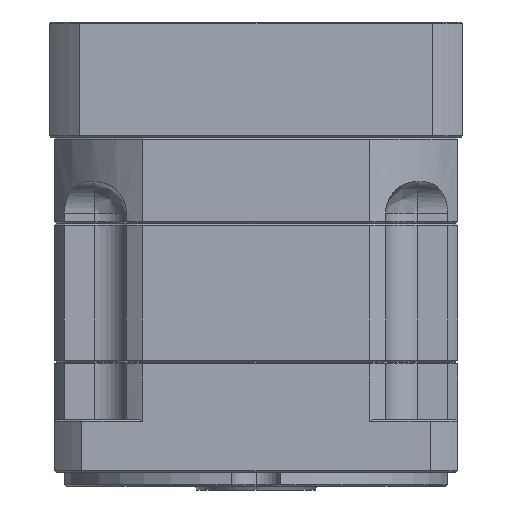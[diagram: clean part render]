
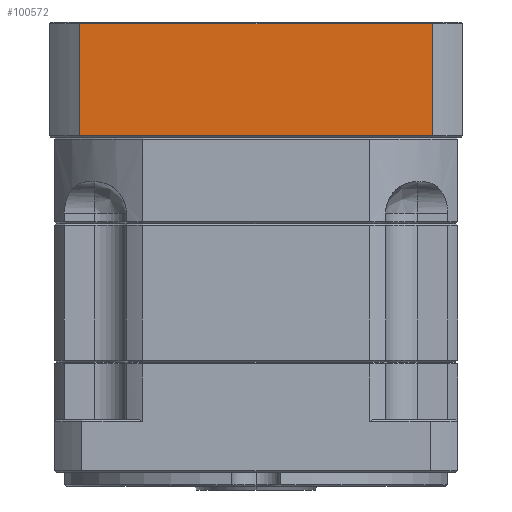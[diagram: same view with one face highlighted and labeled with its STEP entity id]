
A CAD part, left-side view. The second image highlights one B-rep face of the part: STEP entity #100572.
In plain terms, the highlighted planar face has unit normal (-1, 0, 0).
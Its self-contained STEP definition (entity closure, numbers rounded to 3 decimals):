
#1124 = EDGE_LOOP ( 'NONE', ( #12718, #94766, #54197, #71716 ) ) ;
#2733 = EDGE_CURVE ( 'NONE', #59327, #21064, #100605, .T. ) ;
#8048 = DIRECTION ( 'NONE',  ( 1., 0., 0. ) ) ;
#12566 = EDGE_CURVE ( 'NONE', #21064, #60515, #40184, .T. ) ;
#12718 = ORIENTED_EDGE ( 'NONE', *, *, #12566, .F. ) ;
#13632 = CARTESIAN_POINT ( 'NONE',  ( -9.591, 107.304, -37.914 ) ) ;
#18759 = CARTESIAN_POINT ( 'NONE',  ( -9.591, 6.8, -5.414 ) ) ;
#21064 = VERTEX_POINT ( 'NONE', #81730 ) ;
#22446 = VECTOR ( 'NONE', #118768, 1000. ) ;
#25638 = LINE ( 'NONE', #27287, #22446 ) ;
#27287 = CARTESIAN_POINT ( 'NONE',  ( -9.591, 107.304, -37.914 ) ) ;
#29881 = VERTEX_POINT ( 'NONE', #78583 ) ;
#34820 = VECTOR ( 'NONE', #55629, 1000. ) ;
#40184 = LINE ( 'NONE', #104568, #91467 ) ;
#44732 = CARTESIAN_POINT ( 'NONE',  ( -9.591, 6.8, -5.914 ) ) ;
#46935 = VECTOR ( 'NONE', #112006, 1000. ) ;
#54197 = ORIENTED_EDGE ( 'NONE', *, *, #71313, .T. ) ;
#55629 = DIRECTION ( 'NONE',  ( 0., 0., 1. ) ) ;
#59327 = VERTEX_POINT ( 'NONE', #13632 ) ;
#59662 = PLANE ( 'NONE',  #129441 ) ;
#60515 = VERTEX_POINT ( 'NONE', #44732 ) ;
#69910 = DIRECTION ( 'NONE',  ( 0., 1., 0. ) ) ;
#71313 = EDGE_CURVE ( 'NONE', #59327, #29881, #25638, .T. ) ;
#71716 = ORIENTED_EDGE ( 'NONE', *, *, #94453, .F. ) ;
#76195 = CARTESIAN_POINT ( 'NONE',  ( -9.591, 107.304, -5.414 ) ) ;
#78583 = CARTESIAN_POINT ( 'NONE',  ( -9.591, 6.8, -37.914 ) ) ;
#81730 = CARTESIAN_POINT ( 'NONE',  ( -9.591, 107.304, -5.914 ) ) ;
#82190 = LINE ( 'NONE', #18759, #46935 ) ;
#90131 = CARTESIAN_POINT ( 'NONE',  ( -9.591, 107.304, -5.414 ) ) ;
#91467 = VECTOR ( 'NONE', #126372, 1000. ) ;
#94453 = EDGE_CURVE ( 'NONE', #60515, #29881, #82190, .T. ) ;
#94766 = ORIENTED_EDGE ( 'NONE', *, *, #2733, .F. ) ;
#100572 = ADVANCED_FACE ( 'NONE', ( #126106 ), #59662, .F. ) ;
#100605 = LINE ( 'NONE', #76195, #34820 ) ;
#104568 = CARTESIAN_POINT ( 'NONE',  ( -9.591, 107.304, -5.914 ) ) ;
#112006 = DIRECTION ( 'NONE',  ( 0., 0., -1. ) ) ;
#118768 = DIRECTION ( 'NONE',  ( 0., -1., 0. ) ) ;
#126106 = FACE_OUTER_BOUND ( 'NONE', #1124, .T. ) ;
#126372 = DIRECTION ( 'NONE',  ( 0., -1., 0. ) ) ;
#129441 = AXIS2_PLACEMENT_3D ( 'NONE', #90131, #8048, #69910 ) ;
